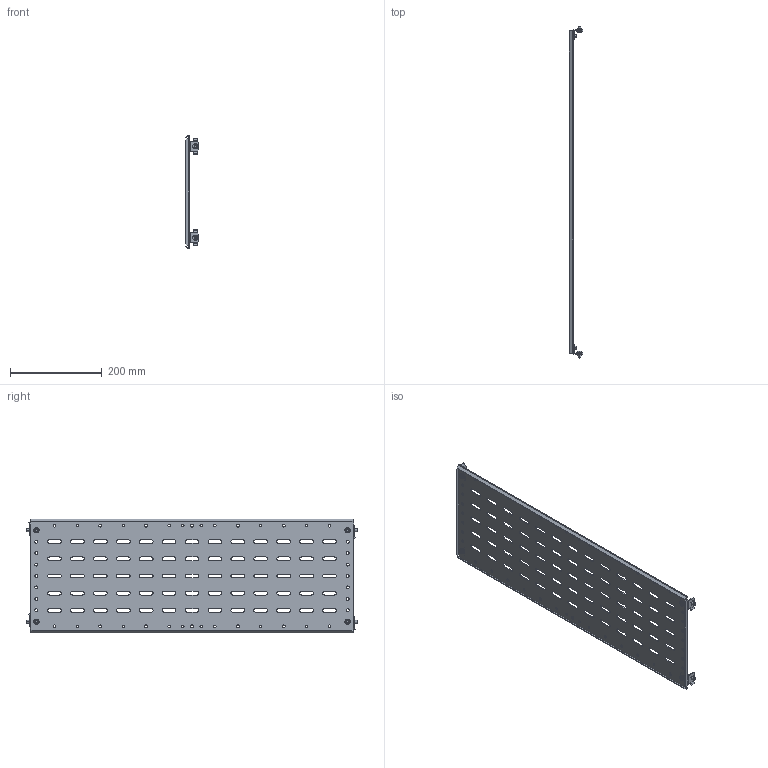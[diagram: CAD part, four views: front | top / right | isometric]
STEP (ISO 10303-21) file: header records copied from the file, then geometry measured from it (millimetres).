
FILE_DESCRIPTION (( 'STEP AP214' ), '1' );
FILE_NAME ('FO-00-SWF-025-080 Ïåðåãîðîäêà ñåêöèîíèðîâàíèÿ çàäíÿÿ 250õ800 ìì.STEP', '2025-08-12T09:06:37', ( '' ), ( '' ), 'SwSTEP 2.0', 'SolidWorks 2023', '' );
FILE_SCHEMA (( 'AUTOMOTIVE_DESIGN' ));
Length unit declared in the file: millimetre
Products named in the file (1): FO-00-SWF-025-080 Перегородка секционирования задняя 250х800 мм
Bounding box: 30.52 x 724 x 247.66 mm (x, y, z)
Volume: 272388.8 mm3; surface area: 366149.6 mm2
Topology: 1 solids, 5 shells, 805 faces, 2257 edges, 1482 vertices
Faces by surface type: cylinder 459, plane 290, cone 24, torus 24, sphere 8
Entity records: 26800 total; most frequent: CARTESIAN_POINT 4813, DIRECTION 4735, ORIENTED_EDGE 4514, EDGE_CURVE 2257, AXIS2_PLACEMENT_3D 1740, VERTEX_POINT 1482, VECTOR 1255, LINE 1255
